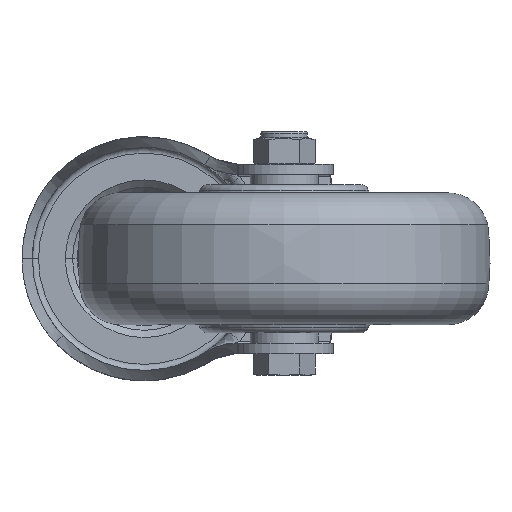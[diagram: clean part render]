
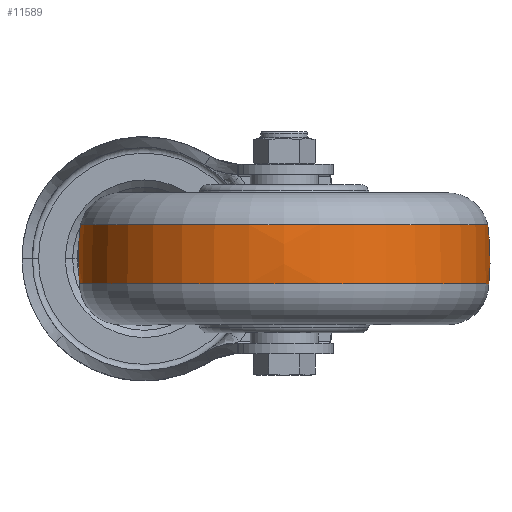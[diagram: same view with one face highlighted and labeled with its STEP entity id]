
A CAD part, front view. The second image highlights one B-rep face of the part: STEP entity #11589.
In plain terms, the highlighted free-form (B-spline) face has degree [3, 3] with [7, 4] control points.
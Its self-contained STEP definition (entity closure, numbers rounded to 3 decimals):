
#10974=CARTESIAN_POINT('',(-6.012,0.,0.));
#10975=DIRECTION('',(-1.,0.,0.));
#10976=DIRECTION('',(0.,1.,0.));
#10977=AXIS2_PLACEMENT_3D('',#10974,#10975,#10976);
#10989=CARTESIAN_POINT('',(0.,-11.437,0.));
#10990=DIRECTION('',(0.,0.,1.));
#10991=DIRECTION('',(0.135,0.991,0.));
#10992=AXIS2_PLACEMENT_3D('',#10989,#10990,#10991);
#10994=CARTESIAN_POINT('',(0.,11.437,0.));
#10995=DIRECTION('',(0.,0.,-1.));
#10996=DIRECTION('',(0.135,-0.991,0.));
#10997=AXIS2_PLACEMENT_3D('',#10994,#10995,#10996);
#10999=CARTESIAN_POINT('',(8.303,0.,0.));
#11000=DIRECTION('',(-1.,0.,0.));
#11001=DIRECTION('',(0.,1.,0.));
#11002=AXIS2_PLACEMENT_3D('',#10999,#11000,#11001);
#11214=CARTESIAN_POINT('',(-6.012,49.697,0.));
#11216=VERTEX_POINT('',#11214);
#11218=CARTESIAN_POINT('',(-6.012,-49.697,
0.));
#11220=VERTEX_POINT('',#11218);
#11247=CARTESIAN_POINT('',(8.303,49.428,0.));
#11249=VERTEX_POINT('',#11247);
#11251=CARTESIAN_POINT('',(8.303,-49.428,
0.));
#11253=VERTEX_POINT('',#11251);
#11553=CARTESIAN_POINT('',(-6.298,-49.57,
3.119));
#11554=CARTESIAN_POINT('',(-1.337,-50.08,
3.151));
#11555=CARTESIAN_POINT('',(3.649,-49.987,
3.145));
#11556=CARTESIAN_POINT('',(8.587,-49.291,
3.101));
#11557=CARTESIAN_POINT('',(-6.298,-51.489,
-27.387));
#11558=CARTESIAN_POINT('',(-1.337,-52.019,
-27.668));
#11559=CARTESIAN_POINT('',(3.649,-51.922,
-27.617));
#11560=CARTESIAN_POINT('',(8.587,-51.199,
-27.232));
#11561=CARTESIAN_POINT('',(-6.298,-30.566,
-49.668));
#11562=CARTESIAN_POINT('',(-1.337,-30.88,
-50.179));
#11563=CARTESIAN_POINT('',(3.649,-30.823,
-50.085));
#11564=CARTESIAN_POINT('',(8.587,-30.393,
-49.388));
#11565=CARTESIAN_POINT('',(-6.298,0.,-49.668));
#11566=CARTESIAN_POINT('',(-1.337,0.,-50.179));
#11567=CARTESIAN_POINT('',(3.649,0.,
-50.085));
#11568=CARTESIAN_POINT('',(8.587,0.,-49.388));
#11569=CARTESIAN_POINT('',(-6.298,30.566,
-49.668));
#11570=CARTESIAN_POINT('',(-1.337,30.88,
-50.179));
#11571=CARTESIAN_POINT('',(3.649,30.823,
-50.085));
#11572=CARTESIAN_POINT('',(8.587,30.393,
-49.388));
#11573=CARTESIAN_POINT('',(-6.298,51.489,
-27.387));
#11574=CARTESIAN_POINT('',(-1.337,52.019,
-27.668));
#11575=CARTESIAN_POINT('',(3.649,51.922,
-27.617));
#11576=CARTESIAN_POINT('',(8.587,51.199,
-27.232));
#11577=CARTESIAN_POINT('',(-6.298,49.57,
3.119));
#11578=CARTESIAN_POINT('',(-1.337,50.08,
3.151));
#11579=CARTESIAN_POINT('',(3.649,49.987,3.145));
#11580=CARTESIAN_POINT('',(8.587,49.291,3.101));
#11581=(BOUNDED_SURFACE()B_SPLINE_SURFACE(3,3,((#11553,#11554,#11555,#11556),(
#11557,#11558,#11559,#11560),(#11561,#11562,#11563,#11564),(#11565,#11566,
#11567,#11568),(#11569,#11570,#11571,#11572),(#11573,#11574,#11575,#11576),(
#11577,#11578,#11579,#11580)),.UNSPECIFIED.,.F.,.F.,.F.)B_SPLINE_SURFACE_WITH_KNOTS((4,3,4),(4,4),(0.,1.,2.),(0.,1.),.UNSPECIFIED.)GEOMETRIC_REPRESENTATION_ITEM()RATIONAL_B_SPLINE_SURFACE(((1.192,1.186,
1.186,1.192),(0.941,0.936,
0.936,0.941),(0.941,0.936,
0.936,0.941),(1.192,1.186,
1.186,1.192),(0.941,0.936,
0.936,0.941),(0.941,0.936,
0.936,0.941),(1.192,1.186,
1.186,1.192)))REPRESENTATION_ITEM('')SURFACE());
#11582=ORIENTED_EDGE('',*,*,#11543,.T.);
#11583=ORIENTED_EDGE('',*,*,#11496,.T.);
#11584=ORIENTED_EDGE('',*,*,#11547,.F.);
#11586=ORIENTED_EDGE('',*,*,#11585,.F.);
#11587=EDGE_LOOP('',(#11582,#11583,#11584,#11586));
#11588=FACE_OUTER_BOUND('',#11587,.F.);
#10978=CIRCLE('',#10977,49.697);
#10993=CIRCLE('',#10992,61.429);
#10998=CIRCLE('',#10997,61.429);
#11003=CIRCLE('',#11002,49.428);
#11496=EDGE_CURVE('',#11216,#11220,#10978,.T.);
#11543=EDGE_CURVE('',#11249,#11216,#10993,.T.);
#11547=EDGE_CURVE('',#11253,#11220,#10998,.T.);
#11585=EDGE_CURVE('',#11249,#11253,#11003,.T.);
#11589=ADVANCED_FACE('',(#11588),#11581,.T.);
